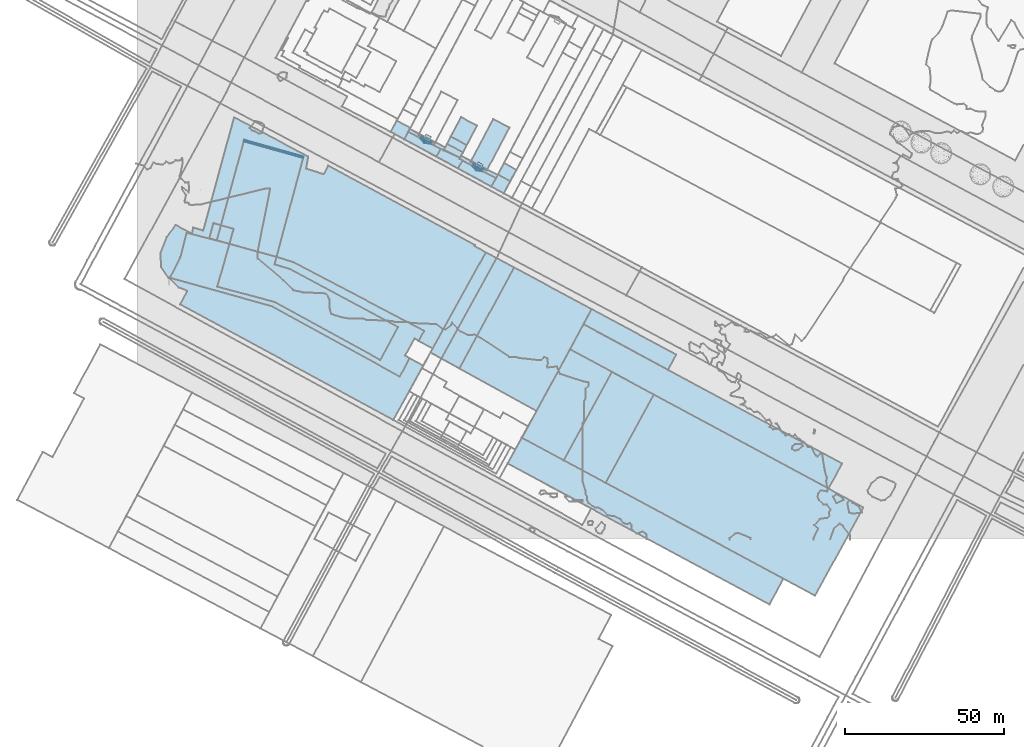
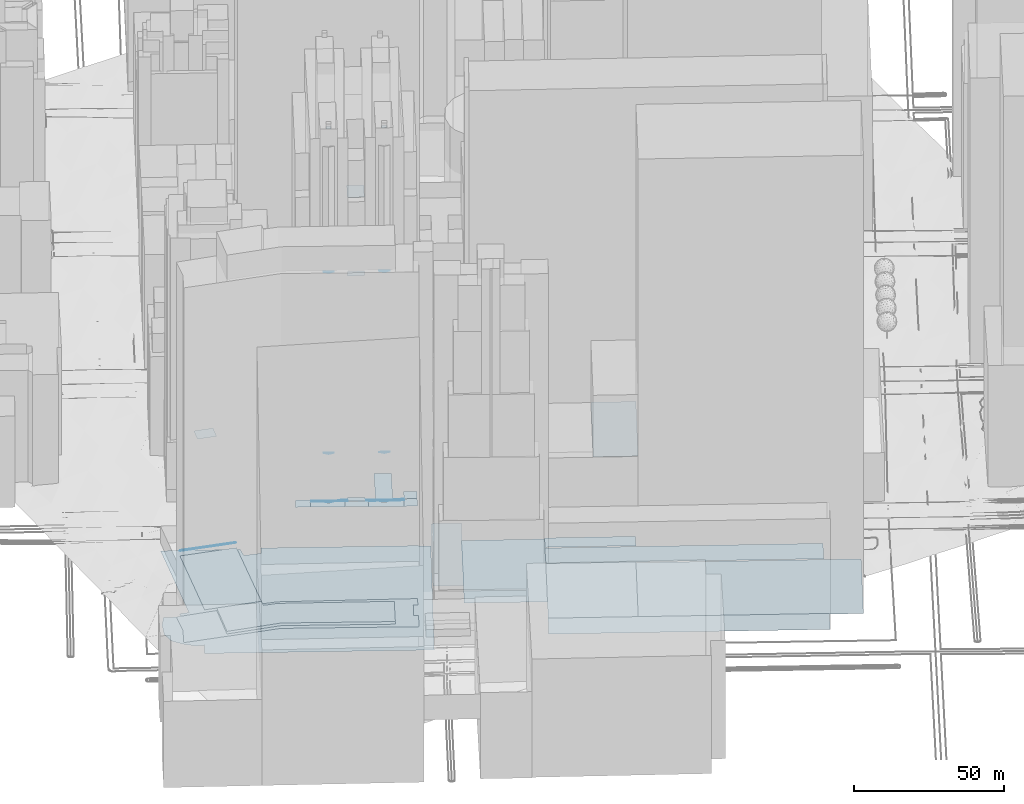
# Not in any storey, part 3 of 76: 32 footings.
"""IFC2X3 model written with IfcOpenShell, lengths in metres."""

from ifc_helpers import new_model, si_unit, frame, origin_with_axes, place, context, subcontext, project, faceted_brep, element, save


model = new_model("IFC2X3")

# Units and contexts
model_context = context("Model", 3, precision=1e-05, world=origin_with_axes())
body_context = subcontext(model_context, "Body", "Model", "MODEL_VIEW")
ifc_project = project(units=[si_unit("AREAUNIT", "SQUARE_METRE"), si_unit("LENGTHUNIT", "METRE")], contexts=[model_context])

# Footings
footing_1_placement = place(None, frame((116.6281498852, 23.4806453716, 19.8729106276), z_axis=(0.0, 0.0, 1.0), x_axis=(1.0, 0.0, 0.0)))
element("IfcFooting", 1, at=footing_1_placement, Name="Sol 0", PredefinedType="STRIP_FOOTING", context=body_context, shape_type="Brep", body=[
    faceted_brep([(82.4513940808, -44.4055894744, 0.0), (0.0, 0.0, 0.0), (4.4642793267, 8.112091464, 0.0), (86.7882297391, -36.2283155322, 0.0)], [[[0, 1, 2]], [[2, 3, 0]]]),
])
footing_2_placement = place(None, frame((147.4689145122, 17.3885478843, 19.6016125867), z_axis=(0.0, 0.0, 1.0), x_axis=(1.0, 0.0, 0.0)))
element("IfcFooting", 2, at=footing_2_placement, Name="Sol 0", PredefinedType="STRIP_FOOTING", context=body_context, shape_type="Brep", body=[
    faceted_brep([(65.9545168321, -35.5265708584, 0.0), (0.0, 0.0, 0.0), (15.1841917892, 27.8099611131, 0.0), (81.1469833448, -7.7163751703, 0.0)], [[[0, 1, 2]], [[2, 3, 0]]]),
])
footing_3_placement = place(None, frame((136.2766873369, 59.4026434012, 19.8866502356), z_axis=(0.0, 0.0, 1.0), x_axis=(1.0, 0.0, 0.0)))
element("IfcFooting", 3, at=footing_3_placement, Name="Sol 0", PredefinedType="STRIP_FOOTING", context=body_context, shape_type="Brep", body=[
    faceted_brep([(81.3807730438, -43.8293972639, 0.0), (0.0, 0.0, 0.0), (4.2387920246, 7.8985421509, 0.0), (85.6535269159, -35.9526169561, 0.0)], [[[0, 1, 2]], [[2, 3, 0]]]),
])
footing_4_placement = place(None, frame((140.5154793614, 67.301185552, 20.1850862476), z_axis=(0.0, 0.0, 1.0), x_axis=(1.0, 0.0, 0.0)))
element("IfcFooting", 4, at=footing_4_placement, Name="Sol 0", PredefinedType="STRIP_FOOTING", context=body_context, shape_type="Brep", body=[
    faceted_brep([(26.597401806, -14.3347775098, 0.0), (0.0, 0.0, 0.0), (2.5614786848, 4.7704244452, 0.0), (29.2006844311, -9.5305509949, 0.0)], [[[0, 1, 2]], [[2, 3, 0]]]),
])
footing_5_placement = place(None, frame((121.0924292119, 31.5927368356, 19.8759564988), z_axis=(0.0, 0.0, 1.0), x_axis=(1.0, 0.0, 0.0)))
element("IfcFooting", 5, at=footing_5_placement, Name="Sol 0", PredefinedType="STRIP_FOOTING", context=body_context, shape_type="Brep", body=[
    faceted_brep([(26.3764853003, -14.2041889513, 0.0), (0.0, 0.0, 0.0), (15.1842581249, 27.8099065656, 0.0), (41.5606770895, 13.6057721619, 0.0)], [[[0, 1, 2]], [[2, 3, 0]]]),
])
footing_6_placement = place(None, frame((134.2679337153, 24.4960340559, 85.0121369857), z_axis=(0.0, 0.0, 1.0), x_axis=(1.0, 0.0, 0.0)))
element("IfcFooting", 6, at=footing_6_placement, Name="Sol 0", PredefinedType="STRIP_FOOTING", context=body_context, shape_type="Brep", body=[
    faceted_brep([(13.2009807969, -7.1074861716, 0.0), (0.0, 0.0, 0.0), (15.1842249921, 27.8099338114, 0.0), (28.3851725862, 20.7024749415, 0.0)], [[[0, 1, 2]], [[2, 3, 0]]]),
])
footing_7_placement = place(None, frame((101.457152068, 53.3915293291, 19.7455046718), z_axis=(0.0, 0.0, 1.0), x_axis=(1.0, 0.0, 0.0)))
element("IfcFooting", 7, at=footing_7_placement, Name="Sol 0", PredefinedType="STRIP_FOOTING", context=body_context, shape_type="Brep", body=[
    faceted_brep([(24.273702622, -13.4182208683, 0.0), (0.0, 0.0, 0.0), (17.2230477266, 31.7970531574, 0.0), (41.6198059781, 18.6800806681, 0.0)], [[[0, 1, 2]], [[2, 3, 0]]]),
])
footing_8_placement = place(None, frame((92.3322190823, 58.4370010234, 26.7455046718), z_axis=(0.0, 0.0, 1.0), x_axis=(1.0, 0.0, 0.0)))
element("IfcFooting", 8, at=footing_8_placement, Name="Sol 0", PredefinedType="STRIP_FOOTING", context=body_context, shape_type="Brep", body=[
    faceted_brep([(9.1249329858, -5.0454716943, 0.0), (0.0, 0.0, 0.0), (17.4371802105, 31.5330646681, 0.0), (26.3479807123, 26.751581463, 0.0)], [[[0, 1, 2]], [[2, 3, 0]]]),
])
footing_9_placement = place(None, frame((111.5045105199, 110.6515077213, 20.6975796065), z_axis=(0.0, 0.0, 1.0), x_axis=(1.0, 0.0, 0.0)))
element("IfcFooting", 9, at=footing_9_placement, Name="Sol 0", PredefinedType="STRIP_FOOTING", context=body_context, shape_type="Brep", body=[
    faceted_brep([(3.9161944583, -2.1194488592, 0.0), (0.0, 0.0, 0.0), (2.0830242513, 3.8100633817, 0.0), (5.9481877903, 1.7233296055, 0.0)], [[[0, 1, 2]], [[2, 3, 0]]]),
])
footing_10_placement = place(None, frame((106.7237532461, 117.4349641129, 171.8733820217), z_axis=(0.0, 0.0, 1.0), x_axis=(1.0, 0.0, 0.0)))
element("IfcFooting", 10, at=footing_10_placement, Name="Sol 0", PredefinedType="STRIP_FOOTING", context=body_context, shape_type="Brep", body=[
    faceted_brep([(1.5373911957, -0.8148118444, 0.0), (0.0, 0.0, 0.0), (0.5952053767, 1.0838316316, 0.0), (2.1242849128, 0.2578211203, 0.0)], [[[0, 1, 2]], [[2, 3, 0]]]),
])
footing_11_placement = place(None, frame((105.7639228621, 117.9456215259, 113.8537947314), z_axis=(0.0, 0.0, 1.0), x_axis=(1.0, 0.0, 0.0)))
element("IfcFooting", 11, at=footing_11_placement, Name="Sol 0", PredefinedType="STRIP_FOOTING", context=body_context, shape_type="Brep", body=[
    faceted_brep([(1.3516415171, -1.5386158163, 0.0), (0.0, 0.0, 0.0), (2.4972215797, -1.3254692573, 0.0), (3.4401714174, -1.8363224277, 0.0)], [[[0, 1, 2]], [[2, 3, 0]]]),
])
footing_12_placement = place(None, frame((101.4674692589, 119.3723193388, 20.7697572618), z_axis=(0.0, 0.0, 1.0), x_axis=(1.0, 0.0, 0.0)))
element("IfcFooting", 12, at=footing_12_placement, Name="Sol 0", PredefinedType="STRIP_FOOTING", context=body_context, shape_type="Brep", body=[
    faceted_brep([(11.4839478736, -6.1060781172, 0.0), (0.0, 0.0, 0.0), (0.5287138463, 0.9942409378, 0.0), (8.7673912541, -3.3398654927, 0.0), (12.0459066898, -5.067041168, 0.0), (8.5775159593, -3.7084452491, 0.0)], [[[0, 1, 2]], [[3, 4, 0]], [[0, 2, 5]], [[5, 3, 0]]]),
])
footing_13_placement = place(None, frame((101.0554515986, 116.3255174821, 20.7066671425), z_axis=(0.0, 0.0, 1.0), x_axis=(1.0, 0.0, 0.0)))
element("IfcFooting", 13, at=footing_13_placement, Name="Sol 0", PredefinedType="STRIP_FOOTING", context=body_context, shape_type="Brep", body=[
    faceted_brep([(10.4490589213, -5.6740097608, 0.0), (0.0, 0.0, 0.0), (1.3463972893, 2.5469505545, 0.0), (7.7933107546, -0.875378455, 0.0), (11.8959655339, -3.0592762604, 0.0), (4.3532680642, 0.949843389, 0.0), (5.7130921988, -0.5664729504, 0.0)], [[[0, 1, 2]], [[3, 4, 0]], [[2, 5, 6]], [[6, 3, 0]], [[0, 2, 6]]]),
])
footing_14_placement = place(None, frame((105.4087196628, 117.2753608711, 40.8364053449), z_axis=(0.0, 0.0, 1.0), x_axis=(1.0, 0.0, 0.0)))
element("IfcFooting", 14, at=footing_14_placement, Name="Sol 0", PredefinedType="STRIP_FOOTING", context=body_context, shape_type="Brep", body=[
    faceted_brep([(1.3598241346, -1.5163163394, 0.0), (0.0, 0.0, 0.0), (3.4400426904, -1.825221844, 0.0)], [[[0, 1, 2]]]),
])
footing_15_placement = place(None, frame((104.948482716, 118.3802403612, 20.8364840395), z_axis=(0.0, 0.0, 1.0), x_axis=(1.0, 0.0, 0.0)))
element("IfcFooting", 15, at=footing_15_placement, Name="Sol 0", PredefinedType="STRIP_FOOTING", context=body_context, shape_type="Brep", body=[
    faceted_brep([(5.0965025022, -2.7163662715, 0.0), (0.0, 0.0, 0.0), (7.1619736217, 13.5058093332, 0.0), (12.2665233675, 10.8228483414, 0.0)], [[[0, 1, 2]], [[2, 3, 0]]]),
])
footing_16_placement = place(None, frame((113.5875347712, 114.461571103, 20.7566379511), z_axis=(0.0, 0.0, 1.0), x_axis=(1.0, 0.0, 0.0)))
element("IfcFooting", 16, at=footing_16_placement, Name="Sol 0", PredefinedType="STRIP_FOOTING", context=body_context, shape_type="Brep", body=[
    faceted_brep([(3.8651635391, -2.0867337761, 0.0), (0.0, 0.0, 0.0), (1.9000401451, 3.5747912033, 0.0), (5.7992221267, 1.4662491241, 0.0)], [[[0, 1, 2]], [[2, 3, 0]]]),
])
footing_17_placement = place(None, frame((98.7355611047, 126.3683150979, 140.9622219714), z_axis=(0.0, 0.0, 1.0), x_axis=(1.0, 0.0, 0.0)))
element("IfcFooting", 17, at=footing_17_placement, Name="Sol 0", PredefinedType="STRIP_FOOTING", context=body_context, shape_type="Brep", body=[
    faceted_brep([(5.0366380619, -2.6504521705, 0.0), (0.0, 0.0, 0.0), (3.2464387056, 6.1217379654, 0.0), (8.2830739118, 3.4712880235, 0.0)], [[[0, 1, 2]], [[2, 3, 0]]]),
])
footing_18_placement = place(None, frame((89.3637116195, 126.5148286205, 113.9436356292), z_axis=(0.0, 0.0, 1.0), x_axis=(1.0, 0.0, 0.0)))
element("IfcFooting", 18, at=footing_18_placement, Name="Sol 0", PredefinedType="STRIP_FOOTING", context=body_context, shape_type="Brep", body=[
    faceted_brep([(1.4178709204, -1.4268270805, 0.0), (0.0, 0.0, 0.0), (0.9512587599, -0.4996567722, 0.0), (3.4315938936, -1.825327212, 0.0)], [[[0, 1, 2]], [[2, 3, 0]]]),
])
footing_19_placement = place(None, frame((90.3149703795, 126.0151718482, 171.9493104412), z_axis=(0.0, 0.0, 1.0), x_axis=(1.0, 0.0, 0.0)))
element("IfcFooting", 19, at=footing_19_placement, Name="Sol 0", PredefinedType="STRIP_FOOTING", context=body_context, shape_type="Brep", body=[
    faceted_brep([(1.5289471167, -0.8149132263, 0.0), (0.0, 0.0, 0.0), (0.6615702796, 1.1845212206, 0.0), (2.1906461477, 0.358507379, 0.0)], [[[0, 1, 2]], [[2, 3, 0]]]),
])
footing_20_placement = place(None, frame((89.049807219, 125.9227641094, 40.9291720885), z_axis=(0.0, 0.0, 1.0), x_axis=(1.0, 0.0, 0.0)))
element("IfcFooting", 20, at=footing_20_placement, Name="Sol 0", PredefinedType="STRIP_FOOTING", context=body_context, shape_type="Brep", body=[
    faceted_brep([(1.3513787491, -1.5164173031, 0.0), (0.0, 0.0, 0.0), (3.4399056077, -1.8141285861, 0.0)], [[[0, 1, 2]]]),
])
footing_21_placement = place(None, frame((85.346445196, 127.8892664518, 20.9224524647), z_axis=(0.0, 0.0, 1.0), x_axis=(1.0, 0.0, 0.0)))
element("IfcFooting", 21, at=footing_21_placement, Name="Sol 0", PredefinedType="STRIP_FOOTING", context=body_context, shape_type="Brep", body=[
    faceted_brep([(11.0759435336, -5.8665913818, 0.0), (0.0, 0.0, 0.0), (0.5122211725, 0.9607414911, 0.0), (8.5131290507, -3.254018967, 0.0), (11.6132272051, -4.8833535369, 0.0), (7.4488603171, -3.1997650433, 0.0), (8.2981897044, -3.6450938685, 0.0)], [[[0, 1, 2]], [[3, 4, 0]], [[0, 2, 5]], [[6, 3, 0]], [[0, 5, 6]]]),
])
footing_22_placement = place(None, frame((79.7834254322, 127.8912834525, 20.9495116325), z_axis=(0.0, 0.0, 1.0), x_axis=(1.0, 0.0, 0.0)))
element("IfcFooting", 22, at=footing_22_placement, Name="Sol 0", PredefinedType="STRIP_FOOTING", context=body_context, shape_type="Brep", body=[
    faceted_brep([(4.3157123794, -2.3590755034, 0.0), (0.0, 0.0, 0.0), (1.9932839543, 3.5425582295, 0.0), (6.2321287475, 1.260307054, 0.0)], [[[0, 1, 2]], [[2, 3, 0]]]),
])
footing_23_placement = place(None, frame((22.7189740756, 94.3773567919, 88.9019969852), z_axis=(0.0, 0.0, 1.0), x_axis=(1.0, 0.0, 0.0)))
element("IfcFooting", 23, at=footing_23_placement, Name="Sol 0", PredefinedType="STRIP_FOOTING", context=body_context, shape_type="Brep", body=[
    faceted_brep([(6.3601779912, -1.7691695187, 0.0), (0.0, 0.0, 0.0), (1.3210524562, 4.7337839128, 0.0), (7.681097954, 2.9757163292, 0.0)], [[[0, 1, 2]], [[2, 3, 0]]]),
])
footing_24_placement = place(None, frame((25.0902924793, 93.7165336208, 19.1898978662), z_axis=(0.0, 0.0, 1.0), x_axis=(1.0, 0.0, 0.0)))
element("IfcFooting", 24, at=footing_24_placement, Name="Sol 0", PredefinedType="STRIP_FOOTING", context=body_context, shape_type="Brep", body=[
    faceted_brep([(18.8092921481, -5.2107143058, 0.0), (0.0, 0.0, 0.0), (8.4934731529, 31.1737525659, 0.0), (27.1849139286, 25.928386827, 0.0)], [[[0, 1, 2]], [[2, 3, 0]]]),
])
footing_25_placement = place(None, frame((33.5837656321, 124.8902861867, 21.1228938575), z_axis=(0.0, 0.0, 1.0), x_axis=(1.0, 0.0, 0.0)))
element("IfcFooting", 25, at=footing_25_placement, Name="Sol 0", PredefinedType="STRIP_FOOTING", context=body_context, shape_type="Brep", body=[
    faceted_brep([(18.6914407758, -5.2453657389, 0.0), (0.0, 0.0, 0.0), (0.1460018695, 0.512397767, 0.0), (18.8375703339, -4.7440683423, 0.0)], [[[0, 1, 2]], [[2, 3, 0]]]),
])
footing_26_placement = place(None, frame((84.0991378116, 125.5322079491, 20.8772412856), z_axis=(0.0, 0.0, 1.0), x_axis=(1.0, 0.0, 0.0)))
element("IfcFooting", 26, at=footing_26_placement, Name="Sol 0", PredefinedType="STRIP_FOOTING", context=body_context, shape_type="Brep", body=[
    faceted_brep([(10.0753325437, -5.4785327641, 0.0), (0.0, 0.0, 0.0), (1.2473073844, 2.3570585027, 0.0), (8.3905750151, -1.4235724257, 0.0), (11.4144512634, -3.0315882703, 0.0), (4.9506694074, 0.3905561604, 0.0), (6.3020481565, -1.1258611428, 0.0)], [[[0, 1, 2]], [[3, 4, 0]], [[2, 5, 6]], [[6, 3, 0]], [[0, 2, 6]]]),
])
footing_27_placement = place(None, frame((97.5295573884, 124.0894496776, 110.9435975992), z_axis=(0.0, 0.0, 1.0), x_axis=(1.0, 0.0, 0.0)))
element("IfcFooting", 27, at=footing_27_placement, Name="Sol 0", PredefinedType="STRIP_FOOTING", context=body_context, shape_type="Brep", body=[
    faceted_brep([(5.0366391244, -2.6504529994, 0.0), (0.0, 0.0, 0.0), (1.2060037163, 2.2788654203, 0.0), (6.2426417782, -0.3715867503, 0.0)], [[[0, 1, 2]], [[2, 3, 0]]]),
])
footing_28_placement = place(None, frame((96.571222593, 122.290857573, 20.9256419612), z_axis=(0.0, 0.0, 1.0), x_axis=(1.0, 0.0, 0.0)))
element("IfcFooting", 28, at=footing_28_placement, Name="Sol 0", PredefinedType="STRIP_FOOTING", context=body_context, shape_type="Brep", body=[
    faceted_brep([(5.0532629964, -2.6280560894, 0.0), (0.0, 0.0, 0.0), (0.9583347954, 1.7985921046, 0.0), (5.9949739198, -0.8518608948, 0.0)], [[[0, 1, 2]], [[2, 3, 0]]]),
])
footing_29_placement = place(None, frame((94.1744703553, 120.053675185, 20.8772412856), z_axis=(0.0, 0.0, 1.0), x_axis=(1.0, 0.0, 0.0)))
element("IfcFooting", 29, at=footing_29_placement, Name="Sol 0", PredefinedType="STRIP_FOOTING", context=body_context, shape_type="Brep", body=[
    faceted_brep([(6.8809812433, -3.7281577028, 0.0), (0.0, 0.0, 0.0), (1.3391187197, 2.4469444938, 0.0), (7.2929989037, -0.6813558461, 0.0), (8.2273785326, -1.1812071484, 0.0), (7.4500152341, -0.3908737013, 0.0)], [[[0, 1, 2]], [[3, 4, 0]], [[2, 5, 3]], [[3, 0, 2]]]),
])
footing_30_placement = place(None, frame((7.3491025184, 89.8136402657, 17.7214611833), z_axis=(0.0, 0.0, 1.0), x_axis=(1.0, 0.0, 0.0)))
element("IfcFooting", 30, at=footing_30_placement, Name="Sol 0", PredefinedType="STRIP_FOOTING", context=body_context, shape_type="Brep", body=[
    faceted_brep([(0.2453875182, -4.415847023, 0.0), (0.0, 0.0, 0.0), (2.0193040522, 4.9417221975, 0.0), (5.7231550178, -10.8915176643, 0.0), (2.6154001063, -7.8744561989, 0.0), (73.2845572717, -52.5956527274, 0.0), (6.1566151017, -16.2377711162, 0.0), (8.4542586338, -12.0033616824, 0.0), (98.8779250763, 2.0692765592, 0.0), (102.4202967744, 0.1564254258, 0.0), (52.8636652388, 27.4365171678, 0.0), (99.0514359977, 2.3932571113, 0.0), (23.1839558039, 42.6351800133, 0.0), (46.5332031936, 30.282922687, 0.0), (45.8767148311, 26.4783333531, 0.0), (9.9255178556, 5.9771433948, 0.0), (10.3255164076, 7.8802686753, 0.0), (13.5007386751, 7.051135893, 0.0), (4.7352910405, 8.7702011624, 0.0), (51.4007622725, 24.7438929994, 0.0)], [[[0, 1, 2]], [[3, 4, 0]], [[5, 6, 7]], [[8, 9, 5]], [[10, 11, 8]], [[12, 13, 14]], [[15, 16, 17]], [[2, 18, 15]], [[3, 0, 2]], [[8, 5, 7]], [[19, 10, 8]], [[17, 12, 14]], [[3, 2, 15]], [[8, 7, 3]], [[14, 19, 8]], [[3, 15, 17]], [[14, 8, 3]], [[3, 17, 14]]]),
])
footing_31_placement = place(None, frame((25.2509816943, 79.141148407, 19.2330182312), z_axis=(0.0, 0.0, 1.0), x_axis=(1.0, 0.0, 0.0)))
element("IfcFooting", 31, at=footing_31_placement, Name="Sol 0", PredefinedType="STRIP_FOOTING", context=body_context, shape_type="Brep", body=[
    faceted_brep([(18.0873774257, -4.830514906, 0.0), (0.0, 0.0, 0.0), (3.8281703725, 13.4670388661, 0.0), (56.8754076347, -12.7180175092, 0.0), (51.3228673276, -23.0742728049, 0.0), (18.0174305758, 7.0147710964, 0.0), (22.7612366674, 5.593231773, 0.0), (18.648602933, 9.3646709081, 0.0)], [[[0, 1, 2]], [[3, 4, 0]], [[5, 6, 3]], [[2, 7, 5]], [[3, 0, 2]], [[2, 5, 3]]]),
])
footing_32_placement = place(None, frame((10.2935527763, 81.9541038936, 18.1747184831), z_axis=(0.0, 0.0, 1.0), x_axis=(1.0, 0.0, 0.0)))
element("IfcFooting", 32, at=footing_32_placement, Name="Sol 0", PredefinedType="STRIP_FOOTING", context=body_context, shape_type="Brep", body=[
    faceted_brep([(74.0393172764, -24.5314802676, 0.0), (75.4666046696, -25.3142687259, 0.0), (72.4107688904, -31.1340236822, 0.0), (80.0687125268, -16.7120963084, 0.0), (78.3921568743, -19.9068084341, 0.0), (77.0243404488, -19.1566367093, 0.0), (33.606031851, 6.5517154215, 0.0), (38.8417037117, 4.9360451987, 0.0), (37.7186655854, 2.7802762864, 0.0), (32.9748594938, 4.2018156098, 0.0), (5.3227427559, 14.1616083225, 0.0), (18.7855992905, 10.6540833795, 0.0), (14.957428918, -2.8129554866, 0.0), (3.3283605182, 6.3446916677, 0.0), (71.8328365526, -15.5309729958, 0.0), (0.0, 0.0, 0.0), (33.0448063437, -7.6434703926, 0.0), (32.0809116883, -8.9647227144, 0.0), (66.2802962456, -25.8872282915, 0.0)], [[[0, 1, 2]], [[3, 4, 5]], [[6, 7, 3]], [[8, 9, 6]], [[10, 11, 12]], [[8, 6, 3]], [[13, 10, 12]], [[14, 8, 3]], [[15, 13, 12]], [[14, 3, 5]], [[15, 12, 16]], [[14, 5, 0]], [[17, 15, 16]], [[14, 0, 2]], [[17, 16, 18]], [[18, 14, 2]], [[2, 17, 18]]]),
])

save(model, "model.ifc")
